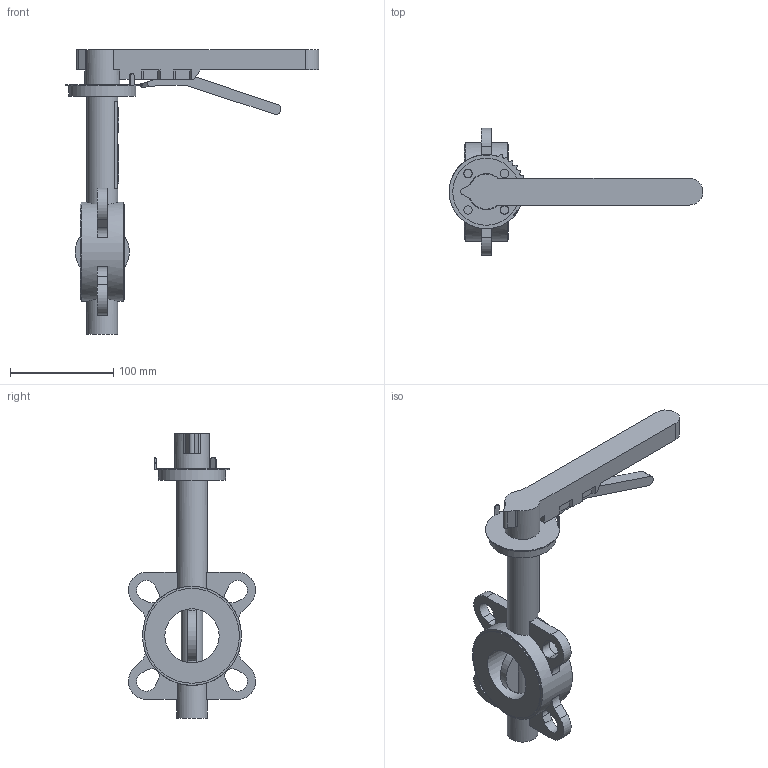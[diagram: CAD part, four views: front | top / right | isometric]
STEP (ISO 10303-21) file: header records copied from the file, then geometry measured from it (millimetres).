
FILE_DESCRIPTION(('STEP AP203'), '1');
FILE_NAME('Çàòâîð 017W.Z(÷óãóí) DN50 PN10_16 ðóêîÿòêà', '', ('UNSPECIFIED'), ('UNSPECIFIED'), 'ASCON STEP Converter 1.6', 'ASCON Math Kernel', '');
FILE_SCHEMA(('CONFIG_CONTROL_DESIGN'));
Length unit declared in the file: millimetre
Bounding box: 245.97 x 123.33 x 276 mm (x, y, z)
Volume: 164924.6 mm3; surface area: 107389.4 mm2
Topology: 1 solids, 2 shells, 706 faces, 2094 edges, 1348 vertices
Faces by surface type: cylinder 466, plane 240
Full cylindrical faces by diameter (mm): 8 x4, 12.6 x1, 21 x1, 30 x2, 34 x1, 35 x1, 52.6 x1, 65 x1, 92 x2, 96 x1
Entity records: 30491 total; most frequent: CARTESIAN_POINT 5017, DIRECTION 4477, ORIENTED_EDGE 4097, EDGE_CURVE 2080, AXIS2_PLACEMENT_3D 1713, VERTEX_POINT 1348, LINE 1051, VECTOR 1051
